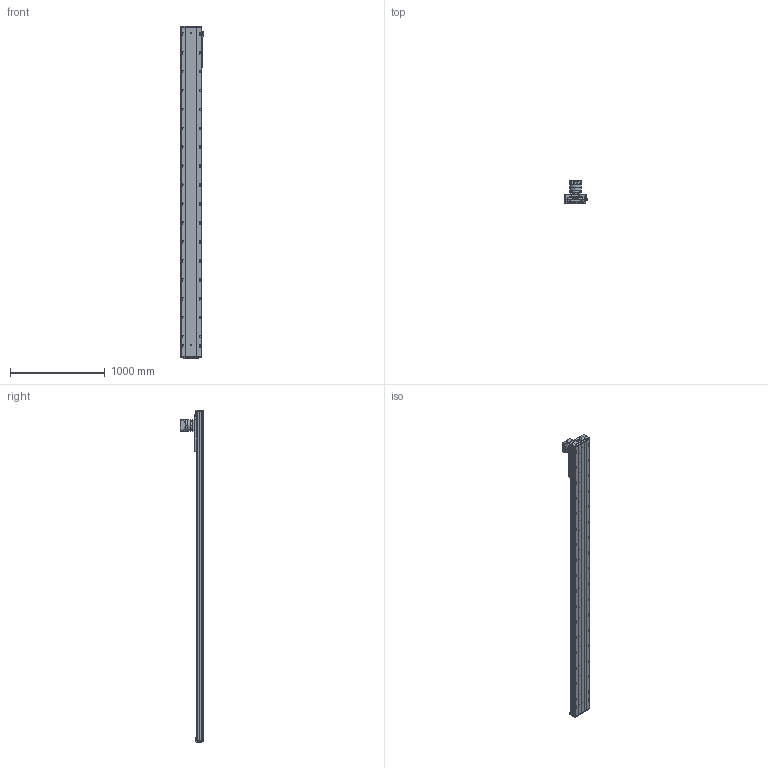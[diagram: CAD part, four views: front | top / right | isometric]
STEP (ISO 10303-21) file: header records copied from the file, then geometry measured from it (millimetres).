
FILE_DESCRIPTION (( 'STEP AP203' ), '1' );
FILE_NAME ('RY220-C-300-UK.SLDASM_3000.step', '2022-08-01T06:00:39', ( '' ), ( '' ), 'SwSTEP 2.0', 'SolidWorks 2016', '' );
FILE_SCHEMA (( 'CONFIG_CONTROL_DESIGN' ));
Length unit declared in the file: millimetre
Products named in the file (10): 滅袉蝶輸ㄗG412隅秶ㄘ; 覜茼ん674; RY220喘沭綴裔啣; RY220喘沭賑輸; RY220-C-300-UK.SLDASM_3000; RY140直线电机感应器674光电安装座; PF115L1-S2-22-58-110-145-M8; RY220喘沭俋离覜茼え; RY220-齿条模组电机安装板; RY220菁釱MK-300_3000
Assembly tree (12 placements, depth 2):
  RY220-C-300-UK.SLDASM_3000
    RY220菁釱MK-300_3000
    RY220喘沭賑輸
    RY220-齿条模组电机安装板
    PF115L1-S2-22-58-110-145-M8
    RY220喘沭綴裔啣  x2
    滅袉蝶輸ㄗG412隅秶ㄘ  x2
    RY140直线电机感应器674光电安装座
    覜茼ん674  x2
    RY220喘沭俋离覜茼え
Bounding box: 247 x 244.5 x 3509 mm (x, y, z)
Volume: 23156624.8 mm3; surface area: 4784855.2 mm2
Topology: 18 solids, 26 shells, 2438 faces, 6579 edges, 4094 vertices
Faces by surface type: cylinder 1201, plane 751, cone 324, bspline 162
Entity records: 77693 total; most frequent: CARTESIAN_POINT 21036, DIRECTION 11751, ORIENTED_EDGE 11410, EDGE_CURVE 5705, AXIS2_PLACEMENT_3D 4517, VERTEX_POINT 3720, EDGE_LOOP 2877, LINE 2717
